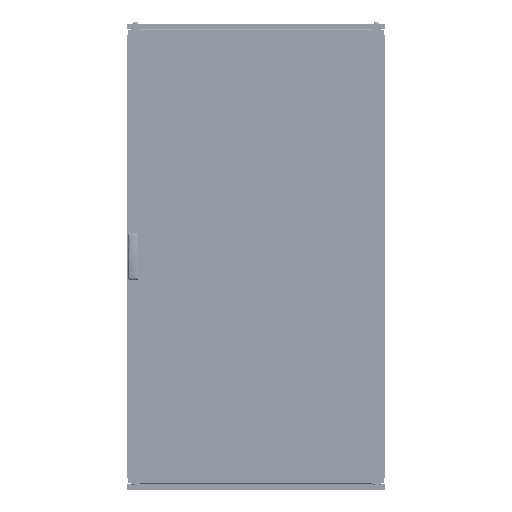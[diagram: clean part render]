
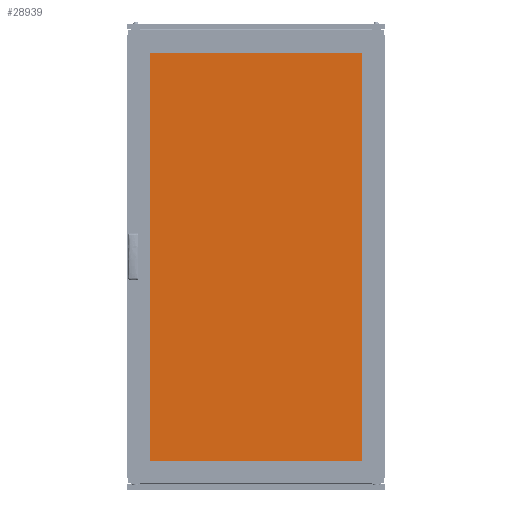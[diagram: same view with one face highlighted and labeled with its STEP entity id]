
A CAD part, top view. The second image highlights one B-rep face of the part: STEP entity #28939.
In plain terms, the highlighted planar face has unit normal (0, 0, 1).
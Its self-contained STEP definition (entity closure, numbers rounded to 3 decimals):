
#843 = VECTOR ( 'NONE', #189870, 1000. ) ;
#2672 = LINE ( 'NONE', #140575, #170554 ) ;
#14067 = CARTESIAN_POINT ( 'NONE',  ( -430., 810., 5. ) ) ;
#15843 = CARTESIAN_POINT ( 'NONE',  ( -430., 810., 5. ) ) ;
#23453 = CARTESIAN_POINT ( 'NONE',  ( 430., -810., 5. ) ) ;
#28939 = ADVANCED_FACE ( 'NONE', ( #224524 ), #67114, .F. ) ;
#33668 = VERTEX_POINT ( 'NONE', #217182 ) ;
#39453 = ORIENTED_EDGE ( 'NONE', *, *, #84937, .T. ) ;
#50942 = DIRECTION ( 'NONE',  ( 0., -1., 0. ) ) ;
#51357 = VECTOR ( 'NONE', #59326, 1000. ) ;
#53500 = ORIENTED_EDGE ( 'NONE', *, *, #157057, .T. ) ;
#58136 = VECTOR ( 'NONE', #72889, 1000. ) ;
#59326 = DIRECTION ( 'NONE',  ( 1., 0., 0. ) ) ;
#67114 = PLANE ( 'NONE',  #170179 ) ;
#72889 = DIRECTION ( 'NONE',  ( 0., 1., 0. ) ) ;
#84937 = EDGE_CURVE ( 'NONE', #209874, #216695, #170408, .T. ) ;
#85499 = CARTESIAN_POINT ( 'NONE',  ( 0., 0., 5. ) ) ;
#85583 = EDGE_LOOP ( 'NONE', ( #97472, #39453, #167279, #53500 ) ) ;
#92017 = CARTESIAN_POINT ( 'NONE',  ( 430., 810., 5. ) ) ;
#97207 = CARTESIAN_POINT ( 'NONE',  ( -430., -810., 5. ) ) ;
#97472 = ORIENTED_EDGE ( 'NONE', *, *, #164592, .T. ) ;
#99751 = VERTEX_POINT ( 'NONE', #174422 ) ;
#100446 = DIRECTION ( 'NONE',  ( -1., 0., 0. ) ) ;
#127968 = LINE ( 'NONE', #23453, #58136 ) ;
#137184 = DIRECTION ( 'NONE',  ( 0., 0., -1. ) ) ;
#140575 = CARTESIAN_POINT ( 'NONE',  ( -430., -810., 5. ) ) ;
#157057 = EDGE_CURVE ( 'NONE', #33668, #99751, #201752, .T. ) ;
#164592 = EDGE_CURVE ( 'NONE', #99751, #209874, #127968, .T. ) ;
#167279 = ORIENTED_EDGE ( 'NONE', *, *, #220866, .T. ) ;
#170179 = AXIS2_PLACEMENT_3D ( 'NONE', #85499, #137184, #100446 ) ;
#170408 = LINE ( 'NONE', #14067, #843 ) ;
#170554 = VECTOR ( 'NONE', #50942, 1000. ) ;
#174422 = CARTESIAN_POINT ( 'NONE',  ( 430., -810., 5. ) ) ;
#189870 = DIRECTION ( 'NONE',  ( -1., 0., 0. ) ) ;
#201752 = LINE ( 'NONE', #97207, #51357 ) ;
#209874 = VERTEX_POINT ( 'NONE', #92017 ) ;
#216695 = VERTEX_POINT ( 'NONE', #15843 ) ;
#217182 = CARTESIAN_POINT ( 'NONE',  ( -430., -810., 5. ) ) ;
#220866 = EDGE_CURVE ( 'NONE', #216695, #33668, #2672, .T. ) ;
#224524 = FACE_OUTER_BOUND ( 'NONE', #85583, .T. ) ;
